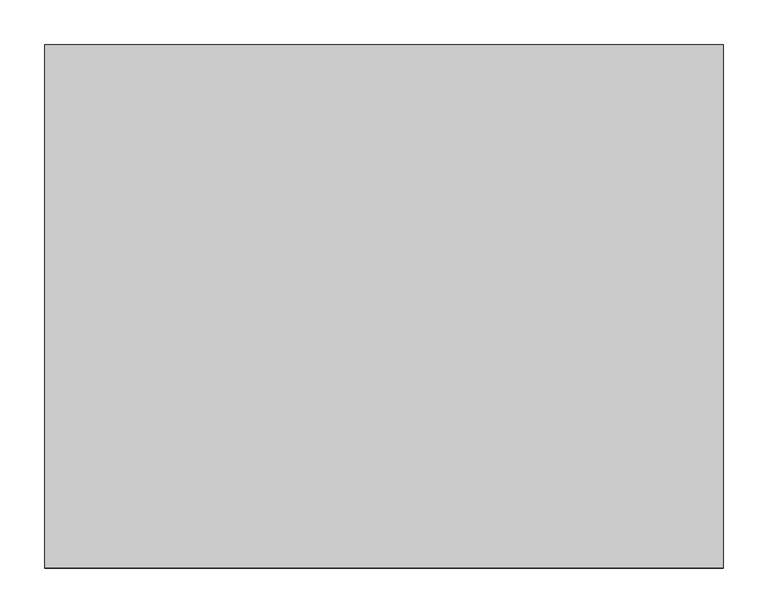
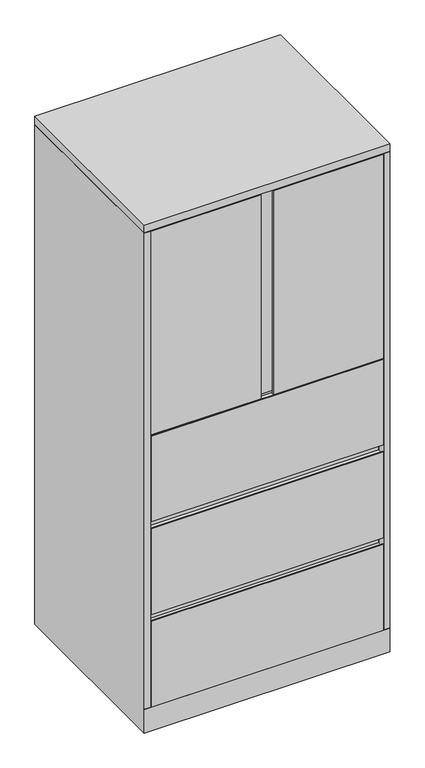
"""IFC4 building model written with IfcOpenShell, lengths in millimetres: furniture geometry, Steelcase - Universal Storage - Cabinet - Combination - Flush Steel : 65 1/2H - 3 Drawers - 23 1/8D x 30W."""

from ifc_helpers import new_model, si_unit, frame, origin, place, context, project, spatial, polyline, outline, extrude, faceted_brep, source, transform, mapped, element, save


def furniture_d66acfd4(model_context):
    return source(origin(), model_context, "Body", "SolidModel", [
        extrude(outline(polyline([(21.8068168, -561.975866), (741.172, -561.975866), (741.172, -587.502), (400.05, -587.502), (400.05, -583.185482), (413.2189152, -583.185482), (413.2189152, -568.3258781), (361.95, -568.3258781), (361.95, -587.502), (21.8068168, -587.502), (21.8068168, -561.975866)])), frame((0.0, 0.0, 968.756), z_axis=(0.0, 0.0, 1.0), x_axis=(1.0, 0.0, 0.0)), (0.0, 0.0, 1.0), 668.02),
        extrude(outline(polyline([(762.0, 0.0), (762.0, -587.502), (0.0, -587.502), (0.0, 0.0), (762.0, 0.0)])), frame((0.0, 0.0, 1638.2999516), z_axis=(0.0, 0.0, 1.0), x_axis=(1.0, 0.0, 0.0)), (0.0, 0.0, 1.0), 25.4000484),
        extrude(outline(polyline([(-587.502, 358.7750484), (-584.3262491, 358.7750484), (-584.3262491, 349.2500484), (-561.975866, 349.2500484), (-561.975866, 381.0), (-560.4518674, 381.0), (-560.4518674, 349.2500484), (-560.4518674, 77.724), (-587.502, 77.724), (-587.502, 358.7750484)])), frame((20.8280006, 0.0, 0.0), z_axis=(1.0, 0.0, 0.0), x_axis=(0.0, 1.0, 0.0)), (0.0, 0.0, 1.0), 720.3439994),
        extrude(outline(polyline([(736.6000242, -25.4000008), (736.6000242, -560.4518674), (25.4000008, -560.4518674), (25.4000008, -25.4000008), (736.6000242, -25.4000008)])), frame((0.0, 0.0, 358.7750484), z_axis=(0.0, 0.0, 1.0), x_axis=(1.0, 0.0, 0.0)), (0.0, 0.0, 1.0), 22.2249516),
        extrude(outline(polyline([(736.6000242, -25.4000008), (736.6000242, -560.4518674), (25.4000008, -560.4518674), (25.4000008, -25.4000008), (736.6000242, -25.4000008)])), frame((0.0, 0.0, 1268.6030484), z_axis=(0.0, 0.0, 1.0), x_axis=(1.0, 0.0, 0.0)), (0.0, 0.0, 1.0), 22.2249516),
        extrude(outline(polyline([(-587.502, 965.3270484), (-584.3262491, 965.3270484), (-584.3262491, 955.8020484), (-561.975866, 955.8020484), (-561.975866, 987.552), (-560.4518674, 987.552), (-560.4518674, 955.8020484), (-560.4518674, 684.276), (-587.502, 684.276), (-587.502, 965.3270484)])), frame((20.8280006, 0.0, 0.0), z_axis=(1.0, 0.0, 0.0), x_axis=(0.0, 1.0, 0.0)), (0.0, 0.0, 1.0), 720.3439994),
        extrude(outline(polyline([(736.6000242, -25.4000008), (736.6000242, -560.4518674), (25.4000008, -560.4518674), (25.4000008, -25.4000008), (736.6000242, -25.4000008)])), frame((0.0, 0.0, 965.3270484), z_axis=(0.0, 0.0, 1.0), x_axis=(1.0, 0.0, 0.0)), (0.0, 0.0, 1.0), 22.2249516),
        extrude(outline(polyline([(-587.502, 662.0510484), (-584.3262491, 662.0510484), (-584.3262491, 652.5260484), (-561.975866, 652.5260484), (-561.975866, 684.276), (-560.4518674, 684.276), (-560.4518674, 652.5260484), (-560.4518674, 381.0), (-587.502, 381.0), (-587.502, 662.0510484)])), frame((20.8280006, 0.0, 0.0), z_axis=(1.0, 0.0, 0.0), x_axis=(0.0, 1.0, 0.0)), (0.0, 0.0, 1.0), 720.3439994),
        extrude(outline(polyline([(736.6000242, -25.4000008), (736.6000242, -560.4518674), (25.4000008, -560.4518674), (25.4000008, -25.4000008), (736.6000242, -25.4000008)])), frame((0.0, 0.0, 662.0510484), z_axis=(0.0, 0.0, 1.0), x_axis=(1.0, 0.0, 0.0)), (0.0, 0.0, 1.0), 22.2249516),
        faceted_brep([(762.0, 0.0, 0.0), (762.0, -587.502, 0.0), (0.0, -587.502, 0.0), (0.0, 0.0, 0.0), (0.0, 0.0, 1636.776), (762.0, 0.0, 1636.776), (0.0, -587.502, 76.2), (0.0, -587.502, 77.724), (0.0, -587.502, 1636.776), (762.0, -587.502, 76.2), (762.0, -587.502, 1636.776), (762.0, -587.502, 77.724), (736.6000242, -25.4000008, 1636.776), (736.6000242, -560.4518674, 1636.776), (741.172, -560.4518674, 1636.776), (741.172, -561.9758781, 1636.776), (742.696, -561.9758781, 1636.776), (742.696, -587.502, 1636.776), (19.304, -587.502, 1636.776), (19.304, -561.975866, 1636.776), (20.8280006, -561.975866, 1636.776), (20.8280006, -560.4518674, 1636.776), (25.4000008, -560.4518674, 1636.776), (25.4000008, -25.4000008, 1636.776), (19.304, -587.502, 77.724), (19.304, -568.198, 77.724), (742.696, -587.502, 77.724), (742.696, -568.0718418, 77.724), (736.6000242, -25.4000008, 77.724), (736.6000242, -560.4518674, 77.724), (741.172, -560.4518674, 77.724), (741.172, -561.9758781, 77.724), (742.696, -561.9758781, 77.724), (19.304, -561.975866, 77.724), (20.8280006, -561.975866, 77.724), (20.8280006, -560.4518674, 77.724), (25.4000008, -560.4518674, 77.724), (25.4000008, -25.4000008, 77.724), (25.526134, -561.975866, 77.724), (736.6000242, -561.975866, 77.724)], [[[0, 1, 2, 3]], [[0, 3, 4, 5]], [[4, 3, 2, 6, 7, 8]], [[2, 1, 9, 6]], [[1, 0, 5, 10, 11, 9]], [[12, 13, 14, 15, 16, 17, 10, 5, 4, 8, 18, 19, 20, 21, 22, 23]], [[24, 7, 25]], [[11, 26, 27]], [[13, 12, 28, 29]], [[14, 13, 29, 30]], [[15, 14, 30, 31]], [[16, 15, 31, 32]], [[17, 16, 32, 27, 26]], [[10, 17, 26, 11]], [[18, 8, 7, 24]], [[19, 18, 24, 25, 33]], [[20, 19, 33, 34]], [[21, 20, 34, 35]], [[22, 21, 35, 36]], [[23, 22, 36, 37]], [[12, 23, 37, 28]], [[38, 39, 27, 32, 31, 30, 29, 28, 37, 36, 35, 34, 33, 25]], [[7, 6, 38, 25]], [[39, 38, 6, 9]], [[39, 9, 11, 27]]]),
    ])


if __name__ == "__main__":
    model = new_model("IFC4")
    model_context = context("Model", 3, world=origin())
    ifc_project = project(units=[si_unit("LENGTHUNIT", "METRE", prefix="MILLI")], contexts=[model_context])
    site = spatial("IfcSite", under=ifc_project)
    building = spatial("IfcBuilding", under=site)
    placement = place(None, origin())
    furniture_shape = furniture_d66acfd4(model_context)
    element("IfcFurniture", 1, ObjectType="Steelcase - Universal Storage - Cabinet - Combination - Flush Steel : 65 1/2H - 3 Drawers - 23 1/8D x 30W", at=placement, inside=building, context=model_context, shape_type="MappedRepresentation", body=[
        mapped(furniture_shape, transform((0.0, 0.0, 0.0), x_axis=(1.0, 0.0, 0.0), y_axis=(0.0, 1.0, 0.0), z_axis=(0.0, 0.0, 1.0))),
    ])
    save(model, "model.ifc")
